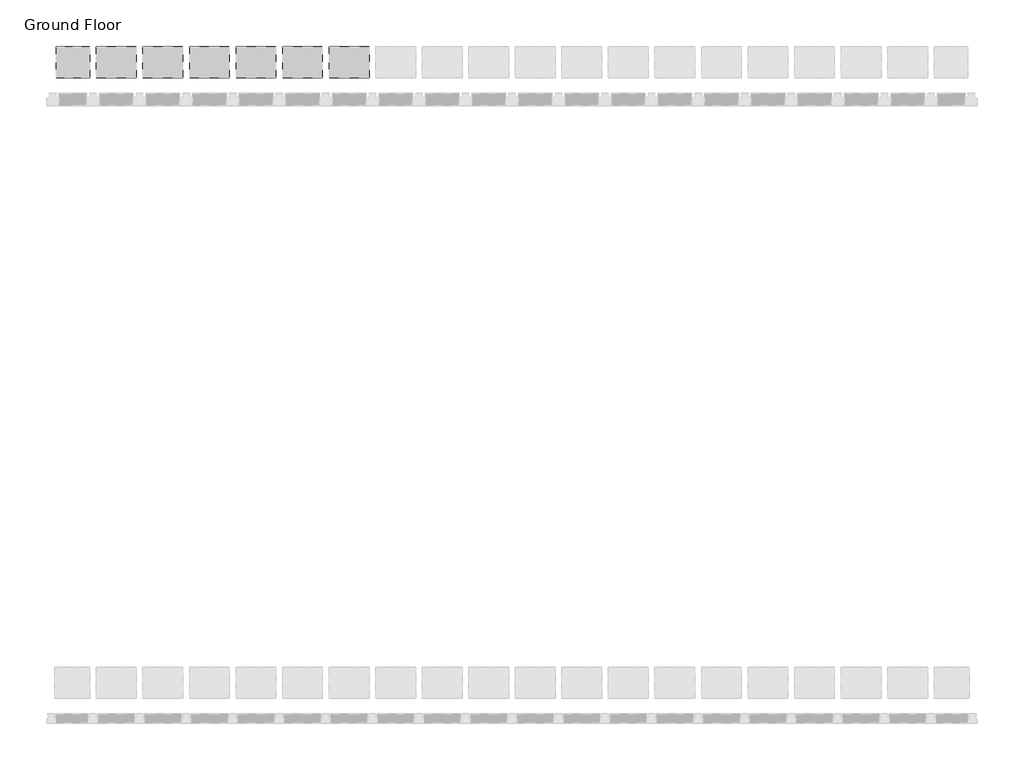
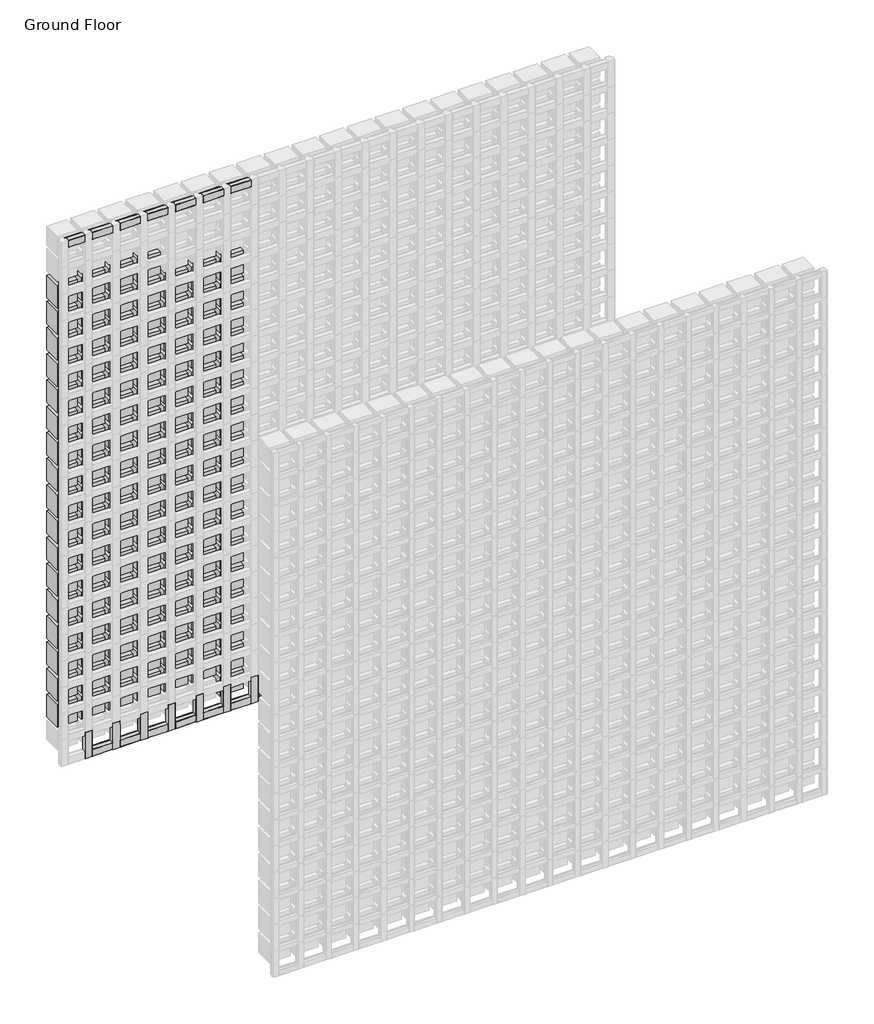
# One storey, part 109 of 350: 117 plates, 21 members.
"""IFC4 building model written with IfcOpenShell, lengths in millimetres."""

from ifc_helpers import new_model, si_unit, origin, place, context, project, spatial, transform, mapped, element, save
from components import rectangular_mullion_84e0df2e, rectangular_mullion_ff8a000c, rectangular_mullion_dacc5c26, rectangular_mullion_71680797, empty_system_panel_empty_5a3607ba, empty_system_panel_empty_5e80e148, empty_system_panel_empty_f8a2f29b

model = new_model("IFC4")

# Units and contexts
model_context = context("Model", 3, world=origin())
ifc_project = project(units=[si_unit("LENGTHUNIT", "METRE", prefix="MILLI")], contexts=[model_context])

# Site, building, storey
site = spatial("IfcSite", under=ifc_project)
building = spatial("IfcBuilding", under=site)
storey = spatial("IfcBuildingStorey", under=building, Name="Ground Floor", Elevation=0.0)

# Members
placement = place(None, origin())
rectangular_mullion_shape = rectangular_mullion_84e0df2e(model_context)
element("IfcMember", 1, ObjectType="Rectangular Mullion : Batten_Timber_Modinex_Austratus_Grid_Fin_40x40_AlaskanYellowCedar", at=placement, inside=storey, context=model_context, shape_type="MappedRepresentation", body=[
    mapped(rectangular_mullion_shape, transform((2066.4361642, 44968.2978302, 0.0), x_axis=(1.0, 0.0, 0.0), y_axis=(0.0, -1.0, 0.0), z_axis=(0.0, 0.0, -1.0))),
])
element("IfcMember", 2, ObjectType="Rectangular Mullion : Batten_Timber_Modinex_Austratus_Grid_Fin_40x40_AlaskanYellowCedar", at=placement, inside=storey, context=model_context, shape_type="MappedRepresentation", body=[
    mapped(rectangular_mullion_shape, transform((2216.4361642, 44968.2978302, 0.0), x_axis=(1.0, 0.0, 0.0), y_axis=(0.0, -1.0, 0.0), z_axis=(0.0, 0.0, -1.0))),
])
element("IfcMember", 3, ObjectType="Rectangular Mullion : Batten_Timber_Modinex_Austratus_Grid_Fin_40x40_AlaskanYellowCedar", at=placement, inside=storey, context=model_context, shape_type="MappedRepresentation", body=[
    mapped(rectangular_mullion_shape, transform((2366.4361642, 44968.2978302, 0.0), x_axis=(1.0, 0.0, 0.0), y_axis=(0.0, -1.0, 0.0), z_axis=(0.0, 0.0, -1.0))),
])
element("IfcMember", 4, ObjectType="Rectangular Mullion : Batten_Timber_Modinex_Austratus_Grid_Fin_40x40_AlaskanYellowCedar", at=placement, inside=storey, context=model_context, shape_type="MappedRepresentation", body=[
    mapped(rectangular_mullion_shape, transform((2516.4361642, 44968.2978302, 0.0), x_axis=(1.0, 0.0, 0.0), y_axis=(0.0, -1.0, 0.0), z_axis=(0.0, 0.0, -1.0))),
])
element("IfcMember", 5, ObjectType="Rectangular Mullion : Batten_Timber_Modinex_Austratus_Grid_Fin_40x40_AlaskanYellowCedar", at=placement, inside=storey, context=model_context, shape_type="MappedRepresentation", body=[
    mapped(rectangular_mullion_shape, transform((2666.4361642, 44968.2978302, 0.0), x_axis=(1.0, 0.0, 0.0), y_axis=(0.0, -1.0, 0.0), z_axis=(0.0, 0.0, -1.0))),
])
element("IfcMember", 6, ObjectType="Rectangular Mullion : Batten_Timber_Modinex_Austratus_Grid_Fin_40x40_AlaskanYellowCedar", at=placement, inside=storey, context=model_context, shape_type="MappedRepresentation", body=[
    mapped(rectangular_mullion_shape, transform((2816.4361642, 44968.2978302, 0.0), x_axis=(1.0, 0.0, 0.0), y_axis=(0.0, -1.0, 0.0), z_axis=(0.0, 0.0, -1.0))),
])
element("IfcMember", 7, ObjectType="Rectangular Mullion : Batten_Timber_Modinex_Austratus_Grid_Fin_40x40_AlaskanYellowCedar", at=placement, inside=storey, context=model_context, shape_type="MappedRepresentation", body=[
    mapped(rectangular_mullion_shape, transform((2966.4361642, 44968.2978302, 0.0), x_axis=(1.0, 0.0, 0.0), y_axis=(0.0, -1.0, 0.0), z_axis=(0.0, 0.0, -1.0))),
])
rectangular_mullion_2_shape = rectangular_mullion_ff8a000c(model_context)
element("IfcMember", 8, ObjectType="Rectangular Mullion : Batten_Timber_Modinex_Austratus_Grid_Fin_40x40_AlaskanYellowCedar", at=placement, inside=storey, context=model_context, shape_type="MappedRepresentation", body=[
    mapped(rectangular_mullion_2_shape, transform((2046.4361642, 44968.2978302, 3000.0), x_axis=(0.0, 0.0, 1.0), y_axis=(0.0, -1.0, 0.0), z_axis=(1.0, 0.0, 0.0))),
])
rectangular_mullion_3_shape = rectangular_mullion_dacc5c26(model_context)
element("IfcMember", 9, ObjectType="Rectangular Mullion : Batten_Timber_Modinex_Austratus_Grid_Fin_40x40_AlaskanYellowCedar", at=placement, inside=storey, context=model_context, shape_type="MappedRepresentation", body=[
    mapped(rectangular_mullion_3_shape, transform((2196.4361642, 44968.2978302, 3000.0), x_axis=(0.0, 0.0, 1.0), y_axis=(0.0, -1.0, 0.0), z_axis=(1.0, 0.0, 0.0))),
])
element("IfcMember", 10, ObjectType="Rectangular Mullion : Batten_Timber_Modinex_Austratus_Grid_Fin_40x40_AlaskanYellowCedar", at=placement, inside=storey, context=model_context, shape_type="MappedRepresentation", body=[
    mapped(rectangular_mullion_3_shape, transform((2346.4361642, 44968.2978302, 3000.0), x_axis=(0.0, 0.0, 1.0), y_axis=(0.0, -1.0, 0.0), z_axis=(1.0, 0.0, 0.0))),
])
element("IfcMember", 11, ObjectType="Rectangular Mullion : Batten_Timber_Modinex_Austratus_Grid_Fin_40x40_AlaskanYellowCedar", at=placement, inside=storey, context=model_context, shape_type="MappedRepresentation", body=[
    mapped(rectangular_mullion_3_shape, transform((2496.4361642, 44968.2978302, 3000.0), x_axis=(0.0, 0.0, 1.0), y_axis=(0.0, -1.0, 0.0), z_axis=(1.0, 0.0, 0.0))),
])
element("IfcMember", 12, ObjectType="Rectangular Mullion : Batten_Timber_Modinex_Austratus_Grid_Fin_40x40_AlaskanYellowCedar", at=placement, inside=storey, context=model_context, shape_type="MappedRepresentation", body=[
    mapped(rectangular_mullion_3_shape, transform((2646.4361642, 44968.2978302, 3000.0), x_axis=(0.0, 0.0, 1.0), y_axis=(0.0, -1.0, 0.0), z_axis=(1.0, 0.0, 0.0))),
])
element("IfcMember", 13, ObjectType="Rectangular Mullion : Batten_Timber_Modinex_Austratus_Grid_Fin_40x40_AlaskanYellowCedar", at=placement, inside=storey, context=model_context, shape_type="MappedRepresentation", body=[
    mapped(rectangular_mullion_3_shape, transform((2796.4361642, 44968.2978302, 3000.0), x_axis=(0.0, 0.0, 1.0), y_axis=(0.0, -1.0, 0.0), z_axis=(1.0, 0.0, 0.0))),
])
element("IfcMember", 14, ObjectType="Rectangular Mullion : Batten_Timber_Modinex_Austratus_Grid_Fin_40x40_AlaskanYellowCedar", at=placement, inside=storey, context=model_context, shape_type="MappedRepresentation", body=[
    mapped(rectangular_mullion_3_shape, transform((2946.4361642, 44968.2978302, 3000.0), x_axis=(0.0, 0.0, 1.0), y_axis=(0.0, -1.0, 0.0), z_axis=(1.0, 0.0, 0.0))),
])
rectangular_mullion_4_shape = rectangular_mullion_71680797(model_context)
element("IfcMember", 15, ObjectType="Rectangular Mullion : Batten_Timber_Modinex_Austratus_Grid_Fin_40x40_AlaskanYellowCedar", at=placement, inside=storey, context=model_context, shape_type="MappedRepresentation", body=[
    mapped(rectangular_mullion_4_shape, transform((2086.4361642, 44968.2978302, 0.0), x_axis=(0.0, 0.0, -1.0), y_axis=(0.0, -1.0, 0.0), z_axis=(-1.0, 0.0, 0.0))),
])
element("IfcMember", 16, ObjectType="Rectangular Mullion : Batten_Timber_Modinex_Austratus_Grid_Fin_40x40_AlaskanYellowCedar", at=placement, inside=storey, context=model_context, shape_type="MappedRepresentation", body=[
    mapped(rectangular_mullion_4_shape, transform((2236.4361642, 44968.2978302, 0.0), x_axis=(0.0, 0.0, -1.0), y_axis=(0.0, -1.0, 0.0), z_axis=(-1.0, 0.0, 0.0))),
])
element("IfcMember", 17, ObjectType="Rectangular Mullion : Batten_Timber_Modinex_Austratus_Grid_Fin_40x40_AlaskanYellowCedar", at=placement, inside=storey, context=model_context, shape_type="MappedRepresentation", body=[
    mapped(rectangular_mullion_4_shape, transform((2386.4361642, 44968.2978302, 0.0), x_axis=(0.0, 0.0, -1.0), y_axis=(0.0, -1.0, 0.0), z_axis=(-1.0, 0.0, 0.0))),
])
element("IfcMember", 18, ObjectType="Rectangular Mullion : Batten_Timber_Modinex_Austratus_Grid_Fin_40x40_AlaskanYellowCedar", at=placement, inside=storey, context=model_context, shape_type="MappedRepresentation", body=[
    mapped(rectangular_mullion_4_shape, transform((2536.4361642, 44968.2978302, 0.0), x_axis=(0.0, 0.0, -1.0), y_axis=(0.0, -1.0, 0.0), z_axis=(-1.0, 0.0, 0.0))),
])
element("IfcMember", 19, ObjectType="Rectangular Mullion : Batten_Timber_Modinex_Austratus_Grid_Fin_40x40_AlaskanYellowCedar", at=placement, inside=storey, context=model_context, shape_type="MappedRepresentation", body=[
    mapped(rectangular_mullion_4_shape, transform((2686.4361642, 44968.2978302, 0.0), x_axis=(0.0, 0.0, -1.0), y_axis=(0.0, -1.0, 0.0), z_axis=(-1.0, 0.0, 0.0))),
])
element("IfcMember", 20, ObjectType="Rectangular Mullion : Batten_Timber_Modinex_Austratus_Grid_Fin_40x40_AlaskanYellowCedar", at=placement, inside=storey, context=model_context, shape_type="MappedRepresentation", body=[
    mapped(rectangular_mullion_4_shape, transform((2836.4361642, 44968.2978302, 0.0), x_axis=(0.0, 0.0, -1.0), y_axis=(0.0, -1.0, 0.0), z_axis=(-1.0, 0.0, 0.0))),
])
element("IfcMember", 21, ObjectType="Rectangular Mullion : Batten_Timber_Modinex_Austratus_Grid_Fin_40x40_AlaskanYellowCedar", at=placement, inside=storey, context=model_context, shape_type="MappedRepresentation", body=[
    mapped(rectangular_mullion_4_shape, transform((2986.4361642, 44968.2978302, 0.0), x_axis=(0.0, 0.0, -1.0), y_axis=(0.0, -1.0, 0.0), z_axis=(-1.0, 0.0, 0.0))),
])

# Plates
empty_system_panel_empty_shape = empty_system_panel_empty_5a3607ba(model_context)
element("IfcPlate", 22, ObjectType="Empty System Panel : Empty", at=placement, inside=storey, context=model_context, shape_type="MappedRepresentation", body=[
    mapped(empty_system_panel_empty_shape, transform((2141.4361642, 44968.2978302, 160.812195), x_axis=(1.0, 0.0, 0.0), y_axis=(0.0, 1.0, 0.0), z_axis=(0.0, 0.0, 1.0))),
])
element("IfcPlate", 23, ObjectType="Empty System Panel : Empty", at=placement, inside=storey, context=model_context, shape_type="MappedRepresentation", body=[
    mapped(empty_system_panel_empty_shape, transform((2291.4361642, 44968.2978302, 160.812195), x_axis=(1.0, 0.0, 0.0), y_axis=(0.0, 1.0, 0.0), z_axis=(0.0, 0.0, 1.0))),
])
element("IfcPlate", 24, ObjectType="Empty System Panel : Empty", at=placement, inside=storey, context=model_context, shape_type="MappedRepresentation", body=[
    mapped(empty_system_panel_empty_shape, transform((2441.4361642, 44968.2978302, 160.812195), x_axis=(1.0, 0.0, 0.0), y_axis=(0.0, 1.0, 0.0), z_axis=(0.0, 0.0, 1.0))),
])
element("IfcPlate", 25, ObjectType="Empty System Panel : Empty", at=placement, inside=storey, context=model_context, shape_type="MappedRepresentation", body=[
    mapped(empty_system_panel_empty_shape, transform((2591.4361642, 44968.2978302, 160.812195), x_axis=(1.0, 0.0, 0.0), y_axis=(0.0, 1.0, 0.0), z_axis=(0.0, 0.0, 1.0))),
])
element("IfcPlate", 26, ObjectType="Empty System Panel : Empty", at=placement, inside=storey, context=model_context, shape_type="MappedRepresentation", body=[
    mapped(empty_system_panel_empty_shape, transform((2741.4361642, 44968.2978302, 160.812195), x_axis=(1.0, 0.0, 0.0), y_axis=(0.0, 1.0, 0.0), z_axis=(0.0, 0.0, 1.0))),
])
element("IfcPlate", 27, ObjectType="Empty System Panel : Empty", at=placement, inside=storey, context=model_context, shape_type="MappedRepresentation", body=[
    mapped(empty_system_panel_empty_shape, transform((2891.4361642, 44968.2978302, 160.812195), x_axis=(1.0, 0.0, 0.0), y_axis=(0.0, 1.0, 0.0), z_axis=(0.0, 0.0, 1.0))),
])
element("IfcPlate", 28, ObjectType="Empty System Panel : Empty", at=placement, inside=storey, context=model_context, shape_type="MappedRepresentation", body=[
    mapped(empty_system_panel_empty_shape, transform((2141.4361642, 44968.2978302, 310.812195), x_axis=(1.0, 0.0, 0.0), y_axis=(0.0, 1.0, 0.0), z_axis=(0.0, 0.0, 1.0))),
])
element("IfcPlate", 29, ObjectType="Empty System Panel : Empty", at=placement, inside=storey, context=model_context, shape_type="MappedRepresentation", body=[
    mapped(empty_system_panel_empty_shape, transform((2291.4361642, 44968.2978302, 310.812195), x_axis=(1.0, 0.0, 0.0), y_axis=(0.0, 1.0, 0.0), z_axis=(0.0, 0.0, 1.0))),
])
element("IfcPlate", 30, ObjectType="Empty System Panel : Empty", at=placement, inside=storey, context=model_context, shape_type="MappedRepresentation", body=[
    mapped(empty_system_panel_empty_shape, transform((2441.4361642, 44968.2978302, 310.812195), x_axis=(1.0, 0.0, 0.0), y_axis=(0.0, 1.0, 0.0), z_axis=(0.0, 0.0, 1.0))),
])
element("IfcPlate", 31, ObjectType="Empty System Panel : Empty", at=placement, inside=storey, context=model_context, shape_type="MappedRepresentation", body=[
    mapped(empty_system_panel_empty_shape, transform((2591.4361642, 44968.2978302, 310.812195), x_axis=(1.0, 0.0, 0.0), y_axis=(0.0, 1.0, 0.0), z_axis=(0.0, 0.0, 1.0))),
])
element("IfcPlate", 32, ObjectType="Empty System Panel : Empty", at=placement, inside=storey, context=model_context, shape_type="MappedRepresentation", body=[
    mapped(empty_system_panel_empty_shape, transform((2741.4361642, 44968.2978302, 310.812195), x_axis=(1.0, 0.0, 0.0), y_axis=(0.0, 1.0, 0.0), z_axis=(0.0, 0.0, 1.0))),
])
element("IfcPlate", 33, ObjectType="Empty System Panel : Empty", at=placement, inside=storey, context=model_context, shape_type="MappedRepresentation", body=[
    mapped(empty_system_panel_empty_shape, transform((2891.4361642, 44968.2978302, 310.812195), x_axis=(1.0, 0.0, 0.0), y_axis=(0.0, 1.0, 0.0), z_axis=(0.0, 0.0, 1.0))),
])
element("IfcPlate", 34, ObjectType="Empty System Panel : Empty", at=placement, inside=storey, context=model_context, shape_type="MappedRepresentation", body=[
    mapped(empty_system_panel_empty_shape, transform((2141.4361642, 44968.2978302, 460.812195), x_axis=(1.0, 0.0, 0.0), y_axis=(0.0, 1.0, 0.0), z_axis=(0.0, 0.0, 1.0))),
])
element("IfcPlate", 35, ObjectType="Empty System Panel : Empty", at=placement, inside=storey, context=model_context, shape_type="MappedRepresentation", body=[
    mapped(empty_system_panel_empty_shape, transform((2291.4361642, 44968.2978302, 460.812195), x_axis=(1.0, 0.0, 0.0), y_axis=(0.0, 1.0, 0.0), z_axis=(0.0, 0.0, 1.0))),
])
element("IfcPlate", 36, ObjectType="Empty System Panel : Empty", at=placement, inside=storey, context=model_context, shape_type="MappedRepresentation", body=[
    mapped(empty_system_panel_empty_shape, transform((2441.4361642, 44968.2978302, 460.812195), x_axis=(1.0, 0.0, 0.0), y_axis=(0.0, 1.0, 0.0), z_axis=(0.0, 0.0, 1.0))),
])
element("IfcPlate", 37, ObjectType="Empty System Panel : Empty", at=placement, inside=storey, context=model_context, shape_type="MappedRepresentation", body=[
    mapped(empty_system_panel_empty_shape, transform((2591.4361642, 44968.2978302, 460.812195), x_axis=(1.0, 0.0, 0.0), y_axis=(0.0, 1.0, 0.0), z_axis=(0.0, 0.0, 1.0))),
])
element("IfcPlate", 38, ObjectType="Empty System Panel : Empty", at=placement, inside=storey, context=model_context, shape_type="MappedRepresentation", body=[
    mapped(empty_system_panel_empty_shape, transform((2741.4361642, 44968.2978302, 460.812195), x_axis=(1.0, 0.0, 0.0), y_axis=(0.0, 1.0, 0.0), z_axis=(0.0, 0.0, 1.0))),
])
element("IfcPlate", 39, ObjectType="Empty System Panel : Empty", at=placement, inside=storey, context=model_context, shape_type="MappedRepresentation", body=[
    mapped(empty_system_panel_empty_shape, transform((2891.4361642, 44968.2978302, 460.812195), x_axis=(1.0, 0.0, 0.0), y_axis=(0.0, 1.0, 0.0), z_axis=(0.0, 0.0, 1.0))),
])
element("IfcPlate", 40, ObjectType="Empty System Panel : Empty", at=placement, inside=storey, context=model_context, shape_type="MappedRepresentation", body=[
    mapped(empty_system_panel_empty_shape, transform((2141.4361642, 44968.2978302, 610.812195), x_axis=(1.0, 0.0, 0.0), y_axis=(0.0, 1.0, 0.0), z_axis=(0.0, 0.0, 1.0))),
])
element("IfcPlate", 41, ObjectType="Empty System Panel : Empty", at=placement, inside=storey, context=model_context, shape_type="MappedRepresentation", body=[
    mapped(empty_system_panel_empty_shape, transform((2291.4361642, 44968.2978302, 610.812195), x_axis=(1.0, 0.0, 0.0), y_axis=(0.0, 1.0, 0.0), z_axis=(0.0, 0.0, 1.0))),
])
element("IfcPlate", 42, ObjectType="Empty System Panel : Empty", at=placement, inside=storey, context=model_context, shape_type="MappedRepresentation", body=[
    mapped(empty_system_panel_empty_shape, transform((2441.4361642, 44968.2978302, 610.812195), x_axis=(1.0, 0.0, 0.0), y_axis=(0.0, 1.0, 0.0), z_axis=(0.0, 0.0, 1.0))),
])
element("IfcPlate", 43, ObjectType="Empty System Panel : Empty", at=placement, inside=storey, context=model_context, shape_type="MappedRepresentation", body=[
    mapped(empty_system_panel_empty_shape, transform((2591.4361642, 44968.2978302, 610.812195), x_axis=(1.0, 0.0, 0.0), y_axis=(0.0, 1.0, 0.0), z_axis=(0.0, 0.0, 1.0))),
])
element("IfcPlate", 44, ObjectType="Empty System Panel : Empty", at=placement, inside=storey, context=model_context, shape_type="MappedRepresentation", body=[
    mapped(empty_system_panel_empty_shape, transform((2741.4361642, 44968.2978302, 610.812195), x_axis=(1.0, 0.0, 0.0), y_axis=(0.0, 1.0, 0.0), z_axis=(0.0, 0.0, 1.0))),
])
element("IfcPlate", 45, ObjectType="Empty System Panel : Empty", at=placement, inside=storey, context=model_context, shape_type="MappedRepresentation", body=[
    mapped(empty_system_panel_empty_shape, transform((2891.4361642, 44968.2978302, 610.812195), x_axis=(1.0, 0.0, 0.0), y_axis=(0.0, 1.0, 0.0), z_axis=(0.0, 0.0, 1.0))),
])
element("IfcPlate", 46, ObjectType="Empty System Panel : Empty", at=placement, inside=storey, context=model_context, shape_type="MappedRepresentation", body=[
    mapped(empty_system_panel_empty_shape, transform((2141.4361642, 44968.2978302, 760.812195), x_axis=(1.0, 0.0, 0.0), y_axis=(0.0, 1.0, 0.0), z_axis=(0.0, 0.0, 1.0))),
])
element("IfcPlate", 47, ObjectType="Empty System Panel : Empty", at=placement, inside=storey, context=model_context, shape_type="MappedRepresentation", body=[
    mapped(empty_system_panel_empty_shape, transform((2291.4361642, 44968.2978302, 760.812195), x_axis=(1.0, 0.0, 0.0), y_axis=(0.0, 1.0, 0.0), z_axis=(0.0, 0.0, 1.0))),
])
element("IfcPlate", 48, ObjectType="Empty System Panel : Empty", at=placement, inside=storey, context=model_context, shape_type="MappedRepresentation", body=[
    mapped(empty_system_panel_empty_shape, transform((2441.4361642, 44968.2978302, 760.812195), x_axis=(1.0, 0.0, 0.0), y_axis=(0.0, 1.0, 0.0), z_axis=(0.0, 0.0, 1.0))),
])
element("IfcPlate", 49, ObjectType="Empty System Panel : Empty", at=placement, inside=storey, context=model_context, shape_type="MappedRepresentation", body=[
    mapped(empty_system_panel_empty_shape, transform((2591.4361642, 44968.2978302, 760.812195), x_axis=(1.0, 0.0, 0.0), y_axis=(0.0, 1.0, 0.0), z_axis=(0.0, 0.0, 1.0))),
])
element("IfcPlate", 50, ObjectType="Empty System Panel : Empty", at=placement, inside=storey, context=model_context, shape_type="MappedRepresentation", body=[
    mapped(empty_system_panel_empty_shape, transform((2741.4361642, 44968.2978302, 760.812195), x_axis=(1.0, 0.0, 0.0), y_axis=(0.0, 1.0, 0.0), z_axis=(0.0, 0.0, 1.0))),
])
element("IfcPlate", 51, ObjectType="Empty System Panel : Empty", at=placement, inside=storey, context=model_context, shape_type="MappedRepresentation", body=[
    mapped(empty_system_panel_empty_shape, transform((2891.4361642, 44968.2978302, 760.812195), x_axis=(1.0, 0.0, 0.0), y_axis=(0.0, 1.0, 0.0), z_axis=(0.0, 0.0, 1.0))),
])
element("IfcPlate", 52, ObjectType="Empty System Panel : Empty", at=placement, inside=storey, context=model_context, shape_type="MappedRepresentation", body=[
    mapped(empty_system_panel_empty_shape, transform((2141.4361642, 44968.2978302, 910.812195), x_axis=(1.0, 0.0, 0.0), y_axis=(0.0, 1.0, 0.0), z_axis=(0.0, 0.0, 1.0))),
])
element("IfcPlate", 53, ObjectType="Empty System Panel : Empty", at=placement, inside=storey, context=model_context, shape_type="MappedRepresentation", body=[
    mapped(empty_system_panel_empty_shape, transform((2291.4361642, 44968.2978302, 910.812195), x_axis=(1.0, 0.0, 0.0), y_axis=(0.0, 1.0, 0.0), z_axis=(0.0, 0.0, 1.0))),
])
element("IfcPlate", 54, ObjectType="Empty System Panel : Empty", at=placement, inside=storey, context=model_context, shape_type="MappedRepresentation", body=[
    mapped(empty_system_panel_empty_shape, transform((2441.4361642, 44968.2978302, 910.812195), x_axis=(1.0, 0.0, 0.0), y_axis=(0.0, 1.0, 0.0), z_axis=(0.0, 0.0, 1.0))),
])
element("IfcPlate", 55, ObjectType="Empty System Panel : Empty", at=placement, inside=storey, context=model_context, shape_type="MappedRepresentation", body=[
    mapped(empty_system_panel_empty_shape, transform((2591.4361642, 44968.2978302, 910.812195), x_axis=(1.0, 0.0, 0.0), y_axis=(0.0, 1.0, 0.0), z_axis=(0.0, 0.0, 1.0))),
])
element("IfcPlate", 56, ObjectType="Empty System Panel : Empty", at=placement, inside=storey, context=model_context, shape_type="MappedRepresentation", body=[
    mapped(empty_system_panel_empty_shape, transform((2741.4361642, 44968.2978302, 910.812195), x_axis=(1.0, 0.0, 0.0), y_axis=(0.0, 1.0, 0.0), z_axis=(0.0, 0.0, 1.0))),
])
element("IfcPlate", 57, ObjectType="Empty System Panel : Empty", at=placement, inside=storey, context=model_context, shape_type="MappedRepresentation", body=[
    mapped(empty_system_panel_empty_shape, transform((2891.4361642, 44968.2978302, 910.812195), x_axis=(1.0, 0.0, 0.0), y_axis=(0.0, 1.0, 0.0), z_axis=(0.0, 0.0, 1.0))),
])
element("IfcPlate", 58, ObjectType="Empty System Panel : Empty", at=placement, inside=storey, context=model_context, shape_type="MappedRepresentation", body=[
    mapped(empty_system_panel_empty_shape, transform((2141.4361642, 44968.2978302, 1060.812195), x_axis=(1.0, 0.0, 0.0), y_axis=(0.0, 1.0, 0.0), z_axis=(0.0, 0.0, 1.0))),
])
element("IfcPlate", 59, ObjectType="Empty System Panel : Empty", at=placement, inside=storey, context=model_context, shape_type="MappedRepresentation", body=[
    mapped(empty_system_panel_empty_shape, transform((2291.4361642, 44968.2978302, 1060.812195), x_axis=(1.0, 0.0, 0.0), y_axis=(0.0, 1.0, 0.0), z_axis=(0.0, 0.0, 1.0))),
])
element("IfcPlate", 60, ObjectType="Empty System Panel : Empty", at=placement, inside=storey, context=model_context, shape_type="MappedRepresentation", body=[
    mapped(empty_system_panel_empty_shape, transform((2441.4361642, 44968.2978302, 1060.812195), x_axis=(1.0, 0.0, 0.0), y_axis=(0.0, 1.0, 0.0), z_axis=(0.0, 0.0, 1.0))),
])
element("IfcPlate", 61, ObjectType="Empty System Panel : Empty", at=placement, inside=storey, context=model_context, shape_type="MappedRepresentation", body=[
    mapped(empty_system_panel_empty_shape, transform((2591.4361642, 44968.2978302, 1060.812195), x_axis=(1.0, 0.0, 0.0), y_axis=(0.0, 1.0, 0.0), z_axis=(0.0, 0.0, 1.0))),
])
element("IfcPlate", 62, ObjectType="Empty System Panel : Empty", at=placement, inside=storey, context=model_context, shape_type="MappedRepresentation", body=[
    mapped(empty_system_panel_empty_shape, transform((2741.4361642, 44968.2978302, 1060.812195), x_axis=(1.0, 0.0, 0.0), y_axis=(0.0, 1.0, 0.0), z_axis=(0.0, 0.0, 1.0))),
])
element("IfcPlate", 63, ObjectType="Empty System Panel : Empty", at=placement, inside=storey, context=model_context, shape_type="MappedRepresentation", body=[
    mapped(empty_system_panel_empty_shape, transform((2891.4361642, 44968.2978302, 1060.812195), x_axis=(1.0, 0.0, 0.0), y_axis=(0.0, 1.0, 0.0), z_axis=(0.0, 0.0, 1.0))),
])
element("IfcPlate", 64, ObjectType="Empty System Panel : Empty", at=placement, inside=storey, context=model_context, shape_type="MappedRepresentation", body=[
    mapped(empty_system_panel_empty_shape, transform((2141.4361642, 44968.2978302, 1210.812195), x_axis=(1.0, 0.0, 0.0), y_axis=(0.0, 1.0, 0.0), z_axis=(0.0, 0.0, 1.0))),
])
element("IfcPlate", 65, ObjectType="Empty System Panel : Empty", at=placement, inside=storey, context=model_context, shape_type="MappedRepresentation", body=[
    mapped(empty_system_panel_empty_shape, transform((2291.4361642, 44968.2978302, 1210.812195), x_axis=(1.0, 0.0, 0.0), y_axis=(0.0, 1.0, 0.0), z_axis=(0.0, 0.0, 1.0))),
])
element("IfcPlate", 66, ObjectType="Empty System Panel : Empty", at=placement, inside=storey, context=model_context, shape_type="MappedRepresentation", body=[
    mapped(empty_system_panel_empty_shape, transform((2441.4361642, 44968.2978302, 1210.812195), x_axis=(1.0, 0.0, 0.0), y_axis=(0.0, 1.0, 0.0), z_axis=(0.0, 0.0, 1.0))),
])
element("IfcPlate", 67, ObjectType="Empty System Panel : Empty", at=placement, inside=storey, context=model_context, shape_type="MappedRepresentation", body=[
    mapped(empty_system_panel_empty_shape, transform((2591.4361642, 44968.2978302, 1210.812195), x_axis=(1.0, 0.0, 0.0), y_axis=(0.0, 1.0, 0.0), z_axis=(0.0, 0.0, 1.0))),
])
element("IfcPlate", 68, ObjectType="Empty System Panel : Empty", at=placement, inside=storey, context=model_context, shape_type="MappedRepresentation", body=[
    mapped(empty_system_panel_empty_shape, transform((2741.4361642, 44968.2978302, 1210.812195), x_axis=(1.0, 0.0, 0.0), y_axis=(0.0, 1.0, 0.0), z_axis=(0.0, 0.0, 1.0))),
])
element("IfcPlate", 69, ObjectType="Empty System Panel : Empty", at=placement, inside=storey, context=model_context, shape_type="MappedRepresentation", body=[
    mapped(empty_system_panel_empty_shape, transform((2891.4361642, 44968.2978302, 1210.812195), x_axis=(1.0, 0.0, 0.0), y_axis=(0.0, 1.0, 0.0), z_axis=(0.0, 0.0, 1.0))),
])
element("IfcPlate", 70, ObjectType="Empty System Panel : Empty", at=placement, inside=storey, context=model_context, shape_type="MappedRepresentation", body=[
    mapped(empty_system_panel_empty_shape, transform((2141.4361642, 44968.2978302, 1360.812195), x_axis=(1.0, 0.0, 0.0), y_axis=(0.0, 1.0, 0.0), z_axis=(0.0, 0.0, 1.0))),
])
element("IfcPlate", 71, ObjectType="Empty System Panel : Empty", at=placement, inside=storey, context=model_context, shape_type="MappedRepresentation", body=[
    mapped(empty_system_panel_empty_shape, transform((2291.4361642, 44968.2978302, 1360.812195), x_axis=(1.0, 0.0, 0.0), y_axis=(0.0, 1.0, 0.0), z_axis=(0.0, 0.0, 1.0))),
])
element("IfcPlate", 72, ObjectType="Empty System Panel : Empty", at=placement, inside=storey, context=model_context, shape_type="MappedRepresentation", body=[
    mapped(empty_system_panel_empty_shape, transform((2441.4361642, 44968.2978302, 1360.812195), x_axis=(1.0, 0.0, 0.0), y_axis=(0.0, 1.0, 0.0), z_axis=(0.0, 0.0, 1.0))),
])
element("IfcPlate", 73, ObjectType="Empty System Panel : Empty", at=placement, inside=storey, context=model_context, shape_type="MappedRepresentation", body=[
    mapped(empty_system_panel_empty_shape, transform((2591.4361642, 44968.2978302, 1360.812195), x_axis=(1.0, 0.0, 0.0), y_axis=(0.0, 1.0, 0.0), z_axis=(0.0, 0.0, 1.0))),
])
element("IfcPlate", 74, ObjectType="Empty System Panel : Empty", at=placement, inside=storey, context=model_context, shape_type="MappedRepresentation", body=[
    mapped(empty_system_panel_empty_shape, transform((2741.4361642, 44968.2978302, 1360.812195), x_axis=(1.0, 0.0, 0.0), y_axis=(0.0, 1.0, 0.0), z_axis=(0.0, 0.0, 1.0))),
])
element("IfcPlate", 75, ObjectType="Empty System Panel : Empty", at=placement, inside=storey, context=model_context, shape_type="MappedRepresentation", body=[
    mapped(empty_system_panel_empty_shape, transform((2891.4361642, 44968.2978302, 1360.812195), x_axis=(1.0, 0.0, 0.0), y_axis=(0.0, 1.0, 0.0), z_axis=(0.0, 0.0, 1.0))),
])
element("IfcPlate", 76, ObjectType="Empty System Panel : Empty", at=placement, inside=storey, context=model_context, shape_type="MappedRepresentation", body=[
    mapped(empty_system_panel_empty_shape, transform((2141.4361642, 44968.2978302, 1510.812195), x_axis=(1.0, 0.0, 0.0), y_axis=(0.0, 1.0, 0.0), z_axis=(0.0, 0.0, 1.0))),
])
element("IfcPlate", 77, ObjectType="Empty System Panel : Empty", at=placement, inside=storey, context=model_context, shape_type="MappedRepresentation", body=[
    mapped(empty_system_panel_empty_shape, transform((2291.4361642, 44968.2978302, 1510.812195), x_axis=(1.0, 0.0, 0.0), y_axis=(0.0, 1.0, 0.0), z_axis=(0.0, 0.0, 1.0))),
])
element("IfcPlate", 78, ObjectType="Empty System Panel : Empty", at=placement, inside=storey, context=model_context, shape_type="MappedRepresentation", body=[
    mapped(empty_system_panel_empty_shape, transform((2441.4361642, 44968.2978302, 1510.812195), x_axis=(1.0, 0.0, 0.0), y_axis=(0.0, 1.0, 0.0), z_axis=(0.0, 0.0, 1.0))),
])
element("IfcPlate", 79, ObjectType="Empty System Panel : Empty", at=placement, inside=storey, context=model_context, shape_type="MappedRepresentation", body=[
    mapped(empty_system_panel_empty_shape, transform((2591.4361642, 44968.2978302, 1510.812195), x_axis=(1.0, 0.0, 0.0), y_axis=(0.0, 1.0, 0.0), z_axis=(0.0, 0.0, 1.0))),
])
element("IfcPlate", 80, ObjectType="Empty System Panel : Empty", at=placement, inside=storey, context=model_context, shape_type="MappedRepresentation", body=[
    mapped(empty_system_panel_empty_shape, transform((2741.4361642, 44968.2978302, 1510.812195), x_axis=(1.0, 0.0, 0.0), y_axis=(0.0, 1.0, 0.0), z_axis=(0.0, 0.0, 1.0))),
])
element("IfcPlate", 81, ObjectType="Empty System Panel : Empty", at=placement, inside=storey, context=model_context, shape_type="MappedRepresentation", body=[
    mapped(empty_system_panel_empty_shape, transform((2891.4361642, 44968.2978302, 1510.812195), x_axis=(1.0, 0.0, 0.0), y_axis=(0.0, 1.0, 0.0), z_axis=(0.0, 0.0, 1.0))),
])
element("IfcPlate", 82, ObjectType="Empty System Panel : Empty", at=placement, inside=storey, context=model_context, shape_type="MappedRepresentation", body=[
    mapped(empty_system_panel_empty_shape, transform((2141.4361642, 44968.2978302, 1660.812195), x_axis=(1.0, 0.0, 0.0), y_axis=(0.0, 1.0, 0.0), z_axis=(0.0, 0.0, 1.0))),
])
element("IfcPlate", 83, ObjectType="Empty System Panel : Empty", at=placement, inside=storey, context=model_context, shape_type="MappedRepresentation", body=[
    mapped(empty_system_panel_empty_shape, transform((2291.4361642, 44968.2978302, 1660.812195), x_axis=(1.0, 0.0, 0.0), y_axis=(0.0, 1.0, 0.0), z_axis=(0.0, 0.0, 1.0))),
])
element("IfcPlate", 84, ObjectType="Empty System Panel : Empty", at=placement, inside=storey, context=model_context, shape_type="MappedRepresentation", body=[
    mapped(empty_system_panel_empty_shape, transform((2441.4361642, 44968.2978302, 1660.812195), x_axis=(1.0, 0.0, 0.0), y_axis=(0.0, 1.0, 0.0), z_axis=(0.0, 0.0, 1.0))),
])
element("IfcPlate", 85, ObjectType="Empty System Panel : Empty", at=placement, inside=storey, context=model_context, shape_type="MappedRepresentation", body=[
    mapped(empty_system_panel_empty_shape, transform((2591.4361642, 44968.2978302, 1660.812195), x_axis=(1.0, 0.0, 0.0), y_axis=(0.0, 1.0, 0.0), z_axis=(0.0, 0.0, 1.0))),
])
element("IfcPlate", 86, ObjectType="Empty System Panel : Empty", at=placement, inside=storey, context=model_context, shape_type="MappedRepresentation", body=[
    mapped(empty_system_panel_empty_shape, transform((2741.4361642, 44968.2978302, 1660.812195), x_axis=(1.0, 0.0, 0.0), y_axis=(0.0, 1.0, 0.0), z_axis=(0.0, 0.0, 1.0))),
])
element("IfcPlate", 87, ObjectType="Empty System Panel : Empty", at=placement, inside=storey, context=model_context, shape_type="MappedRepresentation", body=[
    mapped(empty_system_panel_empty_shape, transform((2891.4361642, 44968.2978302, 1660.812195), x_axis=(1.0, 0.0, 0.0), y_axis=(0.0, 1.0, 0.0), z_axis=(0.0, 0.0, 1.0))),
])
element("IfcPlate", 88, ObjectType="Empty System Panel : Empty", at=placement, inside=storey, context=model_context, shape_type="MappedRepresentation", body=[
    mapped(empty_system_panel_empty_shape, transform((2141.4361642, 44968.2978302, 1810.812195), x_axis=(1.0, 0.0, 0.0), y_axis=(0.0, 1.0, 0.0), z_axis=(0.0, 0.0, 1.0))),
])
element("IfcPlate", 89, ObjectType="Empty System Panel : Empty", at=placement, inside=storey, context=model_context, shape_type="MappedRepresentation", body=[
    mapped(empty_system_panel_empty_shape, transform((2291.4361642, 44968.2978302, 1810.812195), x_axis=(1.0, 0.0, 0.0), y_axis=(0.0, 1.0, 0.0), z_axis=(0.0, 0.0, 1.0))),
])
element("IfcPlate", 90, ObjectType="Empty System Panel : Empty", at=placement, inside=storey, context=model_context, shape_type="MappedRepresentation", body=[
    mapped(empty_system_panel_empty_shape, transform((2441.4361642, 44968.2978302, 1810.812195), x_axis=(1.0, 0.0, 0.0), y_axis=(0.0, 1.0, 0.0), z_axis=(0.0, 0.0, 1.0))),
])
element("IfcPlate", 91, ObjectType="Empty System Panel : Empty", at=placement, inside=storey, context=model_context, shape_type="MappedRepresentation", body=[
    mapped(empty_system_panel_empty_shape, transform((2591.4361642, 44968.2978302, 1810.812195), x_axis=(1.0, 0.0, 0.0), y_axis=(0.0, 1.0, 0.0), z_axis=(0.0, 0.0, 1.0))),
])
element("IfcPlate", 92, ObjectType="Empty System Panel : Empty", at=placement, inside=storey, context=model_context, shape_type="MappedRepresentation", body=[
    mapped(empty_system_panel_empty_shape, transform((2741.4361642, 44968.2978302, 1810.812195), x_axis=(1.0, 0.0, 0.0), y_axis=(0.0, 1.0, 0.0), z_axis=(0.0, 0.0, 1.0))),
])
element("IfcPlate", 93, ObjectType="Empty System Panel : Empty", at=placement, inside=storey, context=model_context, shape_type="MappedRepresentation", body=[
    mapped(empty_system_panel_empty_shape, transform((2891.4361642, 44968.2978302, 1810.812195), x_axis=(1.0, 0.0, 0.0), y_axis=(0.0, 1.0, 0.0), z_axis=(0.0, 0.0, 1.0))),
])
element("IfcPlate", 94, ObjectType="Empty System Panel : Empty", at=placement, inside=storey, context=model_context, shape_type="MappedRepresentation", body=[
    mapped(empty_system_panel_empty_shape, transform((2141.4361642, 44968.2978302, 1960.812195), x_axis=(1.0, 0.0, 0.0), y_axis=(0.0, 1.0, 0.0), z_axis=(0.0, 0.0, 1.0))),
])
element("IfcPlate", 95, ObjectType="Empty System Panel : Empty", at=placement, inside=storey, context=model_context, shape_type="MappedRepresentation", body=[
    mapped(empty_system_panel_empty_shape, transform((2291.4361642, 44968.2978302, 1960.812195), x_axis=(1.0, 0.0, 0.0), y_axis=(0.0, 1.0, 0.0), z_axis=(0.0, 0.0, 1.0))),
])
element("IfcPlate", 96, ObjectType="Empty System Panel : Empty", at=placement, inside=storey, context=model_context, shape_type="MappedRepresentation", body=[
    mapped(empty_system_panel_empty_shape, transform((2441.4361642, 44968.2978302, 1960.812195), x_axis=(1.0, 0.0, 0.0), y_axis=(0.0, 1.0, 0.0), z_axis=(0.0, 0.0, 1.0))),
])
element("IfcPlate", 97, ObjectType="Empty System Panel : Empty", at=placement, inside=storey, context=model_context, shape_type="MappedRepresentation", body=[
    mapped(empty_system_panel_empty_shape, transform((2591.4361642, 44968.2978302, 1960.812195), x_axis=(1.0, 0.0, 0.0), y_axis=(0.0, 1.0, 0.0), z_axis=(0.0, 0.0, 1.0))),
])
element("IfcPlate", 98, ObjectType="Empty System Panel : Empty", at=placement, inside=storey, context=model_context, shape_type="MappedRepresentation", body=[
    mapped(empty_system_panel_empty_shape, transform((2741.4361642, 44968.2978302, 1960.812195), x_axis=(1.0, 0.0, 0.0), y_axis=(0.0, 1.0, 0.0), z_axis=(0.0, 0.0, 1.0))),
])
element("IfcPlate", 99, ObjectType="Empty System Panel : Empty", at=placement, inside=storey, context=model_context, shape_type="MappedRepresentation", body=[
    mapped(empty_system_panel_empty_shape, transform((2891.4361642, 44968.2978302, 1960.812195), x_axis=(1.0, 0.0, 0.0), y_axis=(0.0, 1.0, 0.0), z_axis=(0.0, 0.0, 1.0))),
])
element("IfcPlate", 100, ObjectType="Empty System Panel : Empty", at=placement, inside=storey, context=model_context, shape_type="MappedRepresentation", body=[
    mapped(empty_system_panel_empty_shape, transform((2141.4361642, 44968.2978302, 2110.812195), x_axis=(1.0, 0.0, 0.0), y_axis=(0.0, 1.0, 0.0), z_axis=(0.0, 0.0, 1.0))),
])
element("IfcPlate", 101, ObjectType="Empty System Panel : Empty", at=placement, inside=storey, context=model_context, shape_type="MappedRepresentation", body=[
    mapped(empty_system_panel_empty_shape, transform((2291.4361642, 44968.2978302, 2110.812195), x_axis=(1.0, 0.0, 0.0), y_axis=(0.0, 1.0, 0.0), z_axis=(0.0, 0.0, 1.0))),
])
element("IfcPlate", 102, ObjectType="Empty System Panel : Empty", at=placement, inside=storey, context=model_context, shape_type="MappedRepresentation", body=[
    mapped(empty_system_panel_empty_shape, transform((2441.4361642, 44968.2978302, 2110.812195), x_axis=(1.0, 0.0, 0.0), y_axis=(0.0, 1.0, 0.0), z_axis=(0.0, 0.0, 1.0))),
])
element("IfcPlate", 103, ObjectType="Empty System Panel : Empty", at=placement, inside=storey, context=model_context, shape_type="MappedRepresentation", body=[
    mapped(empty_system_panel_empty_shape, transform((2591.4361642, 44968.2978302, 2110.812195), x_axis=(1.0, 0.0, 0.0), y_axis=(0.0, 1.0, 0.0), z_axis=(0.0, 0.0, 1.0))),
])
element("IfcPlate", 104, ObjectType="Empty System Panel : Empty", at=placement, inside=storey, context=model_context, shape_type="MappedRepresentation", body=[
    mapped(empty_system_panel_empty_shape, transform((2741.4361642, 44968.2978302, 2110.812195), x_axis=(1.0, 0.0, 0.0), y_axis=(0.0, 1.0, 0.0), z_axis=(0.0, 0.0, 1.0))),
])
element("IfcPlate", 105, ObjectType="Empty System Panel : Empty", at=placement, inside=storey, context=model_context, shape_type="MappedRepresentation", body=[
    mapped(empty_system_panel_empty_shape, transform((2891.4361642, 44968.2978302, 2110.812195), x_axis=(1.0, 0.0, 0.0), y_axis=(0.0, 1.0, 0.0), z_axis=(0.0, 0.0, 1.0))),
])
element("IfcPlate", 106, ObjectType="Empty System Panel : Empty", at=placement, inside=storey, context=model_context, shape_type="MappedRepresentation", body=[
    mapped(empty_system_panel_empty_shape, transform((2141.4361642, 44968.2978302, 2260.812195), x_axis=(1.0, 0.0, 0.0), y_axis=(0.0, 1.0, 0.0), z_axis=(0.0, 0.0, 1.0))),
])
element("IfcPlate", 107, ObjectType="Empty System Panel : Empty", at=placement, inside=storey, context=model_context, shape_type="MappedRepresentation", body=[
    mapped(empty_system_panel_empty_shape, transform((2291.4361642, 44968.2978302, 2260.812195), x_axis=(1.0, 0.0, 0.0), y_axis=(0.0, 1.0, 0.0), z_axis=(0.0, 0.0, 1.0))),
])
element("IfcPlate", 108, ObjectType="Empty System Panel : Empty", at=placement, inside=storey, context=model_context, shape_type="MappedRepresentation", body=[
    mapped(empty_system_panel_empty_shape, transform((2441.4361642, 44968.2978302, 2260.812195), x_axis=(1.0, 0.0, 0.0), y_axis=(0.0, 1.0, 0.0), z_axis=(0.0, 0.0, 1.0))),
])
element("IfcPlate", 109, ObjectType="Empty System Panel : Empty", at=placement, inside=storey, context=model_context, shape_type="MappedRepresentation", body=[
    mapped(empty_system_panel_empty_shape, transform((2591.4361642, 44968.2978302, 2260.812195), x_axis=(1.0, 0.0, 0.0), y_axis=(0.0, 1.0, 0.0), z_axis=(0.0, 0.0, 1.0))),
])
element("IfcPlate", 110, ObjectType="Empty System Panel : Empty", at=placement, inside=storey, context=model_context, shape_type="MappedRepresentation", body=[
    mapped(empty_system_panel_empty_shape, transform((2741.4361642, 44968.2978302, 2260.812195), x_axis=(1.0, 0.0, 0.0), y_axis=(0.0, 1.0, 0.0), z_axis=(0.0, 0.0, 1.0))),
])
element("IfcPlate", 111, ObjectType="Empty System Panel : Empty", at=placement, inside=storey, context=model_context, shape_type="MappedRepresentation", body=[
    mapped(empty_system_panel_empty_shape, transform((2891.4361642, 44968.2978302, 2260.812195), x_axis=(1.0, 0.0, 0.0), y_axis=(0.0, 1.0, 0.0), z_axis=(0.0, 0.0, 1.0))),
])
element("IfcPlate", 112, ObjectType="Empty System Panel : Empty", at=placement, inside=storey, context=model_context, shape_type="MappedRepresentation", body=[
    mapped(empty_system_panel_empty_shape, transform((2141.4361642, 44968.2978302, 2410.812195), x_axis=(1.0, 0.0, 0.0), y_axis=(0.0, 1.0, 0.0), z_axis=(0.0, 0.0, 1.0))),
])
element("IfcPlate", 113, ObjectType="Empty System Panel : Empty", at=placement, inside=storey, context=model_context, shape_type="MappedRepresentation", body=[
    mapped(empty_system_panel_empty_shape, transform((2291.4361642, 44968.2978302, 2410.812195), x_axis=(1.0, 0.0, 0.0), y_axis=(0.0, 1.0, 0.0), z_axis=(0.0, 0.0, 1.0))),
])
element("IfcPlate", 114, ObjectType="Empty System Panel : Empty", at=placement, inside=storey, context=model_context, shape_type="MappedRepresentation", body=[
    mapped(empty_system_panel_empty_shape, transform((2441.4361642, 44968.2978302, 2410.812195), x_axis=(1.0, 0.0, 0.0), y_axis=(0.0, 1.0, 0.0), z_axis=(0.0, 0.0, 1.0))),
])
element("IfcPlate", 115, ObjectType="Empty System Panel : Empty", at=placement, inside=storey, context=model_context, shape_type="MappedRepresentation", body=[
    mapped(empty_system_panel_empty_shape, transform((2591.4361642, 44968.2978302, 2410.812195), x_axis=(1.0, 0.0, 0.0), y_axis=(0.0, 1.0, 0.0), z_axis=(0.0, 0.0, 1.0))),
])
element("IfcPlate", 116, ObjectType="Empty System Panel : Empty", at=placement, inside=storey, context=model_context, shape_type="MappedRepresentation", body=[
    mapped(empty_system_panel_empty_shape, transform((2741.4361642, 44968.2978302, 2410.812195), x_axis=(1.0, 0.0, 0.0), y_axis=(0.0, 1.0, 0.0), z_axis=(0.0, 0.0, 1.0))),
])
element("IfcPlate", 117, ObjectType="Empty System Panel : Empty", at=placement, inside=storey, context=model_context, shape_type="MappedRepresentation", body=[
    mapped(empty_system_panel_empty_shape, transform((2891.4361642, 44968.2978302, 2410.812195), x_axis=(1.0, 0.0, 0.0), y_axis=(0.0, 1.0, 0.0), z_axis=(0.0, 0.0, 1.0))),
])
element("IfcPlate", 118, ObjectType="Empty System Panel : Empty", at=placement, inside=storey, context=model_context, shape_type="MappedRepresentation", body=[
    mapped(empty_system_panel_empty_shape, transform((2141.4361642, 44968.2978302, 2560.812195), x_axis=(1.0, 0.0, 0.0), y_axis=(0.0, 1.0, 0.0), z_axis=(0.0, 0.0, 1.0))),
])
element("IfcPlate", 119, ObjectType="Empty System Panel : Empty", at=placement, inside=storey, context=model_context, shape_type="MappedRepresentation", body=[
    mapped(empty_system_panel_empty_shape, transform((2291.4361642, 44968.2978302, 2560.812195), x_axis=(1.0, 0.0, 0.0), y_axis=(0.0, 1.0, 0.0), z_axis=(0.0, 0.0, 1.0))),
])
element("IfcPlate", 120, ObjectType="Empty System Panel : Empty", at=placement, inside=storey, context=model_context, shape_type="MappedRepresentation", body=[
    mapped(empty_system_panel_empty_shape, transform((2441.4361642, 44968.2978302, 2560.812195), x_axis=(1.0, 0.0, 0.0), y_axis=(0.0, 1.0, 0.0), z_axis=(0.0, 0.0, 1.0))),
])
empty_system_panel_empty_2_shape = empty_system_panel_empty_5e80e148(model_context)
element("IfcPlate", 121, ObjectType="Empty System Panel : Empty", at=placement, inside=storey, context=model_context, shape_type="MappedRepresentation", body=[
    mapped(empty_system_panel_empty_2_shape, transform((2891.4361642, 44968.2978302, 30.812195), x_axis=(1.0, 0.0, 0.0), y_axis=(0.0, 1.0, 0.0), z_axis=(0.0, 0.0, 1.0))),
])
empty_system_panel_empty_3_shape = empty_system_panel_empty_f8a2f29b(model_context)
element("IfcPlate", 122, ObjectType="Empty System Panel : Empty", at=placement, inside=storey, context=model_context, shape_type="MappedRepresentation", body=[
    mapped(empty_system_panel_empty_3_shape, transform((2001.4361641, 44968.2978302, 160.812195), x_axis=(1.0, 0.0, 0.0), y_axis=(0.0, 1.0, 0.0), z_axis=(0.0, 0.0, 1.0))),
])
element("IfcPlate", 123, ObjectType="Empty System Panel : Empty", at=placement, inside=storey, context=model_context, shape_type="MappedRepresentation", body=[
    mapped(empty_system_panel_empty_3_shape, transform((2001.4361641, 44968.2978302, 310.812195), x_axis=(1.0, 0.0, 0.0), y_axis=(0.0, 1.0, 0.0), z_axis=(0.0, 0.0, 1.0))),
])
element("IfcPlate", 124, ObjectType="Empty System Panel : Empty", at=placement, inside=storey, context=model_context, shape_type="MappedRepresentation", body=[
    mapped(empty_system_panel_empty_3_shape, transform((2001.4361641, 44968.2978302, 460.812195), x_axis=(1.0, 0.0, 0.0), y_axis=(0.0, 1.0, 0.0), z_axis=(0.0, 0.0, 1.0))),
])
element("IfcPlate", 125, ObjectType="Empty System Panel : Empty", at=placement, inside=storey, context=model_context, shape_type="MappedRepresentation", body=[
    mapped(empty_system_panel_empty_3_shape, transform((2001.4361641, 44968.2978302, 610.812195), x_axis=(1.0, 0.0, 0.0), y_axis=(0.0, 1.0, 0.0), z_axis=(0.0, 0.0, 1.0))),
])
element("IfcPlate", 126, ObjectType="Empty System Panel : Empty", at=placement, inside=storey, context=model_context, shape_type="MappedRepresentation", body=[
    mapped(empty_system_panel_empty_3_shape, transform((2001.4361641, 44968.2978302, 760.812195), x_axis=(1.0, 0.0, 0.0), y_axis=(0.0, 1.0, 0.0), z_axis=(0.0, 0.0, 1.0))),
])
element("IfcPlate", 127, ObjectType="Empty System Panel : Empty", at=placement, inside=storey, context=model_context, shape_type="MappedRepresentation", body=[
    mapped(empty_system_panel_empty_3_shape, transform((2001.4361641, 44968.2978302, 910.812195), x_axis=(1.0, 0.0, 0.0), y_axis=(0.0, 1.0, 0.0), z_axis=(0.0, 0.0, 1.0))),
])
element("IfcPlate", 128, ObjectType="Empty System Panel : Empty", at=placement, inside=storey, context=model_context, shape_type="MappedRepresentation", body=[
    mapped(empty_system_panel_empty_3_shape, transform((2001.4361641, 44968.2978302, 1060.812195), x_axis=(1.0, 0.0, 0.0), y_axis=(0.0, 1.0, 0.0), z_axis=(0.0, 0.0, 1.0))),
])
element("IfcPlate", 129, ObjectType="Empty System Panel : Empty", at=placement, inside=storey, context=model_context, shape_type="MappedRepresentation", body=[
    mapped(empty_system_panel_empty_3_shape, transform((2001.4361641, 44968.2978302, 1210.812195), x_axis=(1.0, 0.0, 0.0), y_axis=(0.0, 1.0, 0.0), z_axis=(0.0, 0.0, 1.0))),
])
element("IfcPlate", 130, ObjectType="Empty System Panel : Empty", at=placement, inside=storey, context=model_context, shape_type="MappedRepresentation", body=[
    mapped(empty_system_panel_empty_3_shape, transform((2001.4361641, 44968.2978302, 1360.812195), x_axis=(1.0, 0.0, 0.0), y_axis=(0.0, 1.0, 0.0), z_axis=(0.0, 0.0, 1.0))),
])
element("IfcPlate", 131, ObjectType="Empty System Panel : Empty", at=placement, inside=storey, context=model_context, shape_type="MappedRepresentation", body=[
    mapped(empty_system_panel_empty_3_shape, transform((2001.4361641, 44968.2978302, 1510.812195), x_axis=(1.0, 0.0, 0.0), y_axis=(0.0, 1.0, 0.0), z_axis=(0.0, 0.0, 1.0))),
])
element("IfcPlate", 132, ObjectType="Empty System Panel : Empty", at=placement, inside=storey, context=model_context, shape_type="MappedRepresentation", body=[
    mapped(empty_system_panel_empty_3_shape, transform((2001.4361641, 44968.2978302, 1660.812195), x_axis=(1.0, 0.0, 0.0), y_axis=(0.0, 1.0, 0.0), z_axis=(0.0, 0.0, 1.0))),
])
element("IfcPlate", 133, ObjectType="Empty System Panel : Empty", at=placement, inside=storey, context=model_context, shape_type="MappedRepresentation", body=[
    mapped(empty_system_panel_empty_3_shape, transform((2001.4361641, 44968.2978302, 1810.812195), x_axis=(1.0, 0.0, 0.0), y_axis=(0.0, 1.0, 0.0), z_axis=(0.0, 0.0, 1.0))),
])
element("IfcPlate", 134, ObjectType="Empty System Panel : Empty", at=placement, inside=storey, context=model_context, shape_type="MappedRepresentation", body=[
    mapped(empty_system_panel_empty_3_shape, transform((2001.4361641, 44968.2978302, 1960.812195), x_axis=(1.0, 0.0, 0.0), y_axis=(0.0, 1.0, 0.0), z_axis=(0.0, 0.0, 1.0))),
])
element("IfcPlate", 135, ObjectType="Empty System Panel : Empty", at=placement, inside=storey, context=model_context, shape_type="MappedRepresentation", body=[
    mapped(empty_system_panel_empty_3_shape, transform((2001.4361641, 44968.2978302, 2110.812195), x_axis=(1.0, 0.0, 0.0), y_axis=(0.0, 1.0, 0.0), z_axis=(0.0, 0.0, 1.0))),
])
element("IfcPlate", 136, ObjectType="Empty System Panel : Empty", at=placement, inside=storey, context=model_context, shape_type="MappedRepresentation", body=[
    mapped(empty_system_panel_empty_3_shape, transform((2001.4361641, 44968.2978302, 2260.812195), x_axis=(1.0, 0.0, 0.0), y_axis=(0.0, 1.0, 0.0), z_axis=(0.0, 0.0, 1.0))),
])
element("IfcPlate", 137, ObjectType="Empty System Panel : Empty", at=placement, inside=storey, context=model_context, shape_type="MappedRepresentation", body=[
    mapped(empty_system_panel_empty_3_shape, transform((2001.4361641, 44968.2978302, 2410.812195), x_axis=(1.0, 0.0, 0.0), y_axis=(0.0, 1.0, 0.0), z_axis=(0.0, 0.0, 1.0))),
])
element("IfcPlate", 138, ObjectType="Empty System Panel : Empty", at=placement, inside=storey, context=model_context, shape_type="MappedRepresentation", body=[
    mapped(empty_system_panel_empty_3_shape, transform((2001.4361641, 44968.2978302, 2560.812195), x_axis=(1.0, 0.0, 0.0), y_axis=(0.0, 1.0, 0.0), z_axis=(0.0, 0.0, 1.0))),
])

save(model, "model.ifc")
